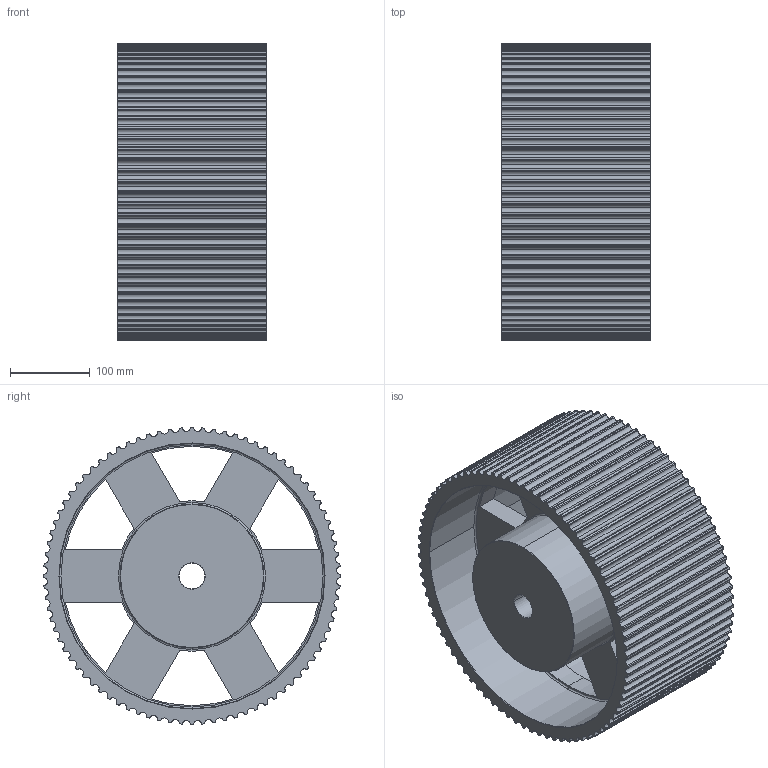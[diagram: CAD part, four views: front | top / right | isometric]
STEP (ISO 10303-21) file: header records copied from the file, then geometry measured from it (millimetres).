
FILE_DESCRIPTION(('STEP AP203'),'1');
FILE_NAME('84_-_14_m_170.stp','2022-04-28T11:42:10',('TraceParts'),('TraceParts S.A.'),'Spatial InterOp 3D',' ',' ');
FILE_SCHEMA(('CONFIG_CONTROL_DESIGN'));
Length unit declared in the file: millimetre
Products named in the file (1): 1
Bounding box: 187 x 371.54 x 371.54 mm (x, y, z)
Volume: 8974899 mm3; surface area: 762312.2 mm2
Topology: 1 solids, 1 shells, 484 faces, 1422 edges, 944 vertices
Faces by surface type: cylinder 446, plane 18, cone 12, torus 8
Entity records: 16730 total; most frequent: DIRECTION 3320, CARTESIAN_POINT 2851, ORIENTED_EDGE 2844, EDGE_CURVE 1422, AXIS2_PLACEMENT_3D 1413, VERTEX_POINT 944, CIRCLE 928, EDGE_LOOP 502
